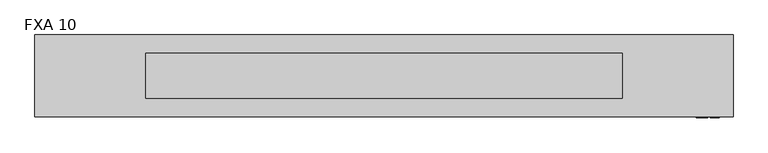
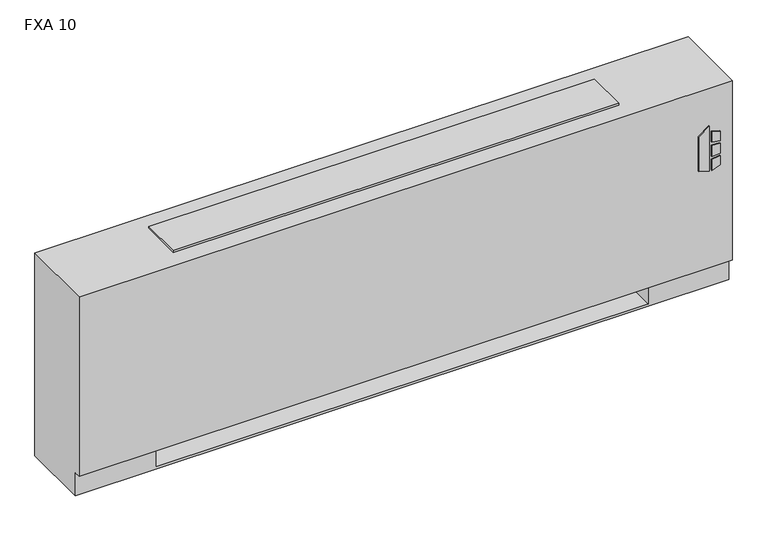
"""IFC4 building model written with IfcOpenShell, lengths in millimetres: proxy geometry, Vertical_Fan_Coil_Unit_-_FXA_-_IEC_-_4-Pipe_TS-FR_LH_2022 : FXA 10."""

from ifc_helpers import new_model, si_unit, point, frame, frame_2d, origin, place, context, project, spatial, polyline, circle_curve, trimmed, segment, composite_curve, outline, extrude, source, transform, mapped, element, save
from ifc_brep_helpers import plane_surface, revolved_surface, advanced_brep


def fxa_10_7e9628c3(model_context):
    return source(origin(), model_context, "Body", "SolidModel", [
        extrude(outline(polyline([(391.6086829, 1027.1868862), (381.6606126, 1059.3602728), (523.831537, 1059.3602728), (500.8095309, 1027.1868862), (391.6086829, 1027.1868862)])), frame((0.0, 12.7, 0.0), z_axis=(0.0, 1.0, 0.0), x_axis=(0.0, 0.0, 1.0)), (0.0, 0.0, 1.0), 3.175),
        extrude(outline(polyline([(470.6079683, 1066.1186058), (467.4055757, 1092.2), (496.6344168, 1092.2), (504.6988318, 1066.1186058), (470.6079683, 1066.1186058)])), frame((0.0, 12.7, 0.0), z_axis=(0.0, 1.0, 0.0), x_axis=(0.0, 0.0, 1.0)), (0.0, 0.0, 1.0), 3.175),
        extrude(outline(polyline([(418.7444414, 1092.2), (415.0789404, 1066.1186058), (381.6606126, 1066.1186058), (390.2948498, 1092.2), (418.7444414, 1092.2)])), frame((0.0, 12.7, 0.0), z_axis=(0.0, 1.0, 0.0), x_axis=(0.0, 0.0, 1.0)), (0.0, 0.0, 1.0), 3.175),
        extrude(outline(polyline([(458.0596028, 1092.2), (460.3414292, 1066.1186058), (424.4038806, 1066.1186058), (427.1451456, 1092.2), (458.0596028, 1092.2)])), frame((0.0, 12.7, 0.0), z_axis=(0.0, 1.0, 0.0), x_axis=(0.0, 0.0, 1.0)), (0.0, 0.0, 1.0), 3.175),
        extrude(outline(polyline([(1009.65, 223.266), (1009.65, 81.534), (889.0, 81.534), (889.0, 223.266), (1009.65, 223.266)])), frame((0.0, 0.0, 327.025), z_axis=(0.0, 0.0, 1.0), x_axis=(1.0, 0.0, 0.0)), (0.0, 0.0, 1.0), 260.35),
        extrude(outline(composite_curve([segment(trimmed(circle_curve(frame_2d((-647.7, 130.175)), 9.525), [point((-657.225, 130.175))], [point((-638.175, 130.175))], False, "CARTESIAN"), True, "CONTINUOUS"), segment(trimmed(circle_curve(frame_2d((-647.7, 130.175)), 9.525), [point((-638.175, 130.175))], [point((-657.225, 130.175))], False, "CARTESIAN"), True, "CONTINUOUS")], self_intersect=False)), frame((0.0, 0.0, 101.6), z_axis=(0.0, 0.0, 1.0), x_axis=(1.0, 0.0, 0.0)), (0.0, 0.0, 1.0), 25.4),
        extrude(outline(polyline([(-742.95, 63.5), (-742.95, 196.85), (-584.2, 196.85), (-584.2, 63.5), (-742.95, 63.5)])), frame((0.0, 0.0, 127.0), z_axis=(0.0, 0.0, 1.0), x_axis=(1.0, 0.0, 0.0)), (0.0, 0.0, 1.0), 50.8),
        extrude(outline(composite_curve([segment(trimmed(circle_curve(frame_2d((109.0168, 460.0194)), 7.9375), [point((109.0168, 467.9569))], [point((109.0168, 452.0819))], False, "CARTESIAN"), True, "CONTINUOUS"), segment(trimmed(circle_curve(frame_2d((109.0168, 460.0194)), 7.9375), [point((109.0168, 452.0819))], [point((109.0168, 467.9569))], False, "CARTESIAN"), True, "CONTINUOUS")], self_intersect=False)), frame((-635.0, 0.0, 0.0), z_axis=(1.0, 0.0, 0.0), x_axis=(0.0, 1.0, 0.0)), (0.0, 0.0, 1.0), 50.8),
        extrude(outline(composite_curve([segment(trimmed(circle_curve(frame_2d((172.085, 460.0194)), 7.9375), [point((172.085, 467.9569))], [point((172.085, 452.0819))], False, "CARTESIAN"), True, "CONTINUOUS"), segment(trimmed(circle_curve(frame_2d((172.085, 460.0194)), 7.9375), [point((172.085, 452.0819))], [point((172.085, 467.9569))], False, "CARTESIAN"), True, "CONTINUOUS")], self_intersect=False)), frame((-635.0, 0.0, 0.0), z_axis=(1.0, 0.0, 0.0), x_axis=(0.0, 1.0, 0.0)), (0.0, 0.0, 1.0), 50.8),
        extrude(outline(composite_curve([segment(trimmed(circle_curve(frame_2d((130.175, 554.99)), 7.9502), [point((130.175, 562.9402))], [point((130.175, 547.0398))], False, "CARTESIAN"), True, "CONTINUOUS"), segment(trimmed(circle_curve(frame_2d((130.175, 554.99)), 7.9502), [point((130.175, 547.0398))], [point((130.175, 562.9402))], False, "CARTESIAN"), True, "CONTINUOUS")], self_intersect=False)), frame((-635.0, 0.0, 0.0), z_axis=(1.0, 0.0, 0.0), x_axis=(0.0, 1.0, 0.0)), (0.0, 0.0, 1.0), 50.8),
        extrude(outline(composite_curve([segment(trimmed(circle_curve(frame_2d((53.975, 416.56)), 7.9502), [point((53.975, 424.5102))], [point((53.975, 408.6098))], False, "CARTESIAN"), True, "CONTINUOUS"), segment(trimmed(circle_curve(frame_2d((53.975, 416.56)), 7.9502), [point((53.975, 408.6098))], [point((53.975, 424.5102))], False, "CARTESIAN"), True, "CONTINUOUS")], self_intersect=False)), frame((-635.0, 0.0, 0.0), z_axis=(1.0, 0.0, 0.0), x_axis=(0.0, 1.0, 0.0)), (0.0, 0.0, 1.0), 50.8),
        advanced_brep(
        [(1130.3, 244.475, 641.35), (-825.5, 244.475, 641.35), (-825.5, 15.875, 641.35), (1130.3, 15.875, 641.35), (-825.5, 244.475, 0.0), (1130.3, 244.475, 0.0), (1130.3, 34.925, 0.0), (-825.5, 34.925, 0.0), (889.0, 244.475, 73.025), (1117.6, 244.475, 73.025), (1117.6, 244.475, 628.65), (889.0, 244.475, 628.65), (889.0, 244.475, 414.8650565), (917.575, 244.475, 414.8650565), (917.575, 244.475, 385.2349435), (889.0, 244.475, 385.2349435), (889.0, 244.475, 287.3375), (917.575, 244.475, 287.3375), (917.575, 244.475, 258.7625), (889.0, 244.475, 258.7625), (889.0, 244.475, 141.2875), (917.575, 244.475, 141.2875), (917.575, 244.475, 112.7125), (889.0, 244.475, 112.7125), (-584.2, 244.475, 628.65), (-812.8, 244.475, 628.65), (-812.8, 244.475, 73.025), (-584.2, 244.475, 73.025), (-584.2, 244.475, 112.7125), (-612.775, 244.475, 112.7125), (-612.775, 244.475, 141.2875), (-584.2, 244.475, 141.2875), (-584.2, 244.475, 258.7625), (-612.775, 244.475, 258.7625), (-612.775, 244.475, 287.3375), (-584.2, 244.475, 287.3375), (-584.2, 244.475, 385.2349435), (-612.775, 244.475, 385.2349435), (-612.775, 244.475, 414.8650565), (-584.2, 244.475, 414.8650565), (907.2626, 244.475, 127.0), (896.1374, 244.475, 127.0), (907.2626, 244.475, 400.05), (896.1374, 244.475, 400.05), (907.2626, 244.475, 273.05), (896.1374, 244.475, 273.05), (-591.3374, 244.475, 127.0), (-602.4626, 244.475, 127.0), (-591.3374, 244.475, 273.05), (-602.4626, 244.475, 273.05), (-591.3374, 244.475, 400.05), (-602.4626, 244.475, 400.05), (-825.5, 34.925, 73.025), (-825.5, 15.875, 73.025), (1130.3, 15.875, 73.025), (1130.3, 34.925, 73.025), (-584.2, 34.925, 73.025), (-584.2, 219.075, 73.025), (889.0, 219.075, 73.025), (889.0, 34.925, 73.025), (889.0, 34.925, 6.35), (-584.2, 34.925, 6.35), (889.0, 41.275, 628.65), (1117.6, 41.275, 628.65), (1117.6, 41.275, 73.025), (889.0, 41.275, 73.025), (-584.2, 41.275, 628.65), (-584.2, 41.275, 73.025), (-812.8, 41.275, 73.025), (-812.8, 41.275, 628.65), (889.0, 219.075, 73.025), (889.0, 238.125, 112.7125), (889.0, 238.125, 141.2875), (889.0, 238.125, 258.7625), (889.0, 238.125, 287.3375), (889.0, 238.125, 385.2349435), (889.0, 238.125, 414.8650565), (-584.2, 219.075, 73.025), (-584.2, 238.125, 414.8650565), (-584.2, 238.125, 385.2349435), (-584.2, 238.125, 287.3375), (-584.2, 238.125, 258.7625), (-584.2, 238.125, 141.2875), (-584.2, 238.125, 112.7125), (-584.2, 219.075, 6.35), (889.0, 219.075, 6.35), (917.575, 238.125, 112.7125), (917.575, 238.125, 141.2875), (896.1374, 238.125, 127.0), (907.2626, 238.125, 127.0), (917.575, 238.125, 258.7625), (917.575, 238.125, 287.3375), (896.1374, 238.125, 273.05), (907.2626, 238.125, 273.05), (917.575, 238.125, 385.2349435), (917.575, 238.125, 414.8650565), (896.1374, 238.125, 400.05), (907.2626, 238.125, 400.05), (-612.775, 238.125, 141.2875), (-612.775, 238.125, 112.7125), (-602.4626, 238.125, 127.0), (-591.3374, 238.125, 127.0), (-612.775, 238.125, 287.3375), (-612.775, 238.125, 258.7625), (-602.4626, 238.125, 273.05), (-591.3374, 238.125, 273.05), (-612.775, 238.125, 414.8650565), (-612.775, 238.125, 385.2349435), (-602.4626, 238.125, 400.05), (-591.3374, 238.125, 400.05)],
        [
            (0, 1),
            (1, 2),
            (2, 3),
            (3, 0),
            (4, 5),
            (5, 6),
            (6, 7),
            (7, 4),
            (0, 5),
            (4, 1),
            (8, 9),
            (9, 10),
            (10, 11),
            (11, 12),
            (12, 13),
            (13, 14),
            (14, 15),
            (15, 16),
            (16, 17),
            (17, 18),
            (18, 19),
            (19, 20),
            (20, 21),
            (21, 22),
            (22, 23),
            (23, 8),
            (24, 25),
            (25, 26),
            (26, 27),
            (27, 28),
            (28, 29),
            (29, 30),
            (30, 31),
            (31, 32),
            (32, 33),
            (33, 34),
            (34, 35),
            (35, 36),
            (36, 37),
            (37, 38),
            (38, 39),
            (39, 24),
            (40, 41, circle_curve(frame((901.7, 244.475, 127.0), z_axis=(0.0, -1.0, 0.0), x_axis=(-1.0, 0.0, 0.0)), 5.5626)),
            (41, 40, circle_curve(frame((901.7, 244.475, 127.0), z_axis=(0.0, -1.0, 0.0), x_axis=(-1.0, 0.0, 0.0)), 5.5626)),
            (42, 43, circle_curve(frame((901.7, 244.475, 400.05), z_axis=(0.0, -1.0, 0.0), x_axis=(-1.0, 0.0, 0.0)), 5.5626)),
            (43, 42, circle_curve(frame((901.7, 244.475, 400.05), z_axis=(0.0, -1.0, 0.0), x_axis=(-1.0, 0.0, 0.0)), 5.5626)),
            (44, 45, circle_curve(frame((901.7, 244.475, 273.05), z_axis=(0.0, -1.0, 0.0), x_axis=(-1.0, 0.0, 0.0)), 5.5626)),
            (45, 44, circle_curve(frame((901.7, 244.475, 273.05), z_axis=(0.0, -1.0, 0.0), x_axis=(-1.0, 0.0, 0.0)), 5.5626)),
            (46, 47, circle_curve(frame((-596.9, 244.475, 127.0), z_axis=(0.0, -1.0, 0.0), x_axis=(-1.0, 0.0, 0.0)), 5.5626)),
            (47, 46, circle_curve(frame((-596.9, 244.475, 127.0), z_axis=(0.0, -1.0, 0.0), x_axis=(-1.0, 0.0, 0.0)), 5.5626)),
            (48, 49, circle_curve(frame((-596.9, 244.475, 273.05), z_axis=(0.0, -1.0, 0.0), x_axis=(-1.0, 0.0, 0.0)), 5.5626)),
            (49, 48, circle_curve(frame((-596.9, 244.475, 273.05), z_axis=(0.0, -1.0, 0.0), x_axis=(-1.0, 0.0, 0.0)), 5.5626)),
            (50, 51, circle_curve(frame((-596.9, 244.475, 400.05), z_axis=(0.0, -1.0, 0.0), x_axis=(-1.0, 0.0, 0.0)), 5.5626)),
            (51, 50, circle_curve(frame((-596.9, 244.475, 400.05), z_axis=(0.0, -1.0, 0.0), x_axis=(-1.0, 0.0, 0.0)), 5.5626)),
            (7, 52),
            (52, 53),
            (53, 2),
            (53, 54),
            (54, 3),
            (54, 55),
            (55, 6),
            (52, 56),
            (56, 57),
            (57, 58),
            (58, 59),
            (59, 55),
            (59, 60),
            (60, 61),
            (61, 56),
            (62, 63),
            (63, 64),
            (64, 65),
            (65, 62),
            (66, 67),
            (67, 68),
            (68, 69),
            (69, 66),
            (65, 70),
            (70, 8),
            (23, 71),
            (71, 72),
            (72, 20),
            (19, 73),
            (73, 74),
            (74, 16),
            (15, 75),
            (75, 76),
            (76, 12),
            (11, 62),
            (64, 9),
            (63, 10),
            (69, 25),
            (24, 66),
            (68, 26),
            (67, 77),
            (77, 27),
            (39, 78),
            (78, 79),
            (79, 36),
            (35, 80),
            (80, 81),
            (81, 32),
            (31, 82),
            (82, 83),
            (83, 28),
            (57, 84),
            (84, 85),
            (85, 58),
            (85, 60),
            (84, 61),
            (71, 86),
            (86, 87),
            (87, 72),
            (88, 89, circle_curve(frame((901.7, 238.125, 127.0), z_axis=(0.0, 1.0, 0.0), x_axis=(-1.0, 0.0, 0.0)), 5.5626)),
            (89, 88, circle_curve(frame((901.7, 238.125, 127.0), z_axis=(0.0, 1.0, 0.0), x_axis=(-1.0, 0.0, 0.0)), 5.5626)),
            (73, 90),
            (90, 91),
            (91, 74),
            (92, 93, circle_curve(frame((901.7, 238.125, 273.05), z_axis=(0.0, 1.0, 0.0), x_axis=(-1.0, 0.0, 0.0)), 5.5626)),
            (93, 92, circle_curve(frame((901.7, 238.125, 273.05), z_axis=(0.0, 1.0, 0.0), x_axis=(-1.0, 0.0, 0.0)), 5.5626)),
            (75, 94),
            (94, 95),
            (95, 76),
            (96, 97, circle_curve(frame((901.7, 238.125, 400.05), z_axis=(0.0, 1.0, 0.0), x_axis=(-1.0, 0.0, 0.0)), 5.5626)),
            (97, 96, circle_curve(frame((901.7, 238.125, 400.05), z_axis=(0.0, 1.0, 0.0), x_axis=(-1.0, 0.0, 0.0)), 5.5626)),
            (98, 99),
            (99, 83),
            (82, 98),
            (100, 101, circle_curve(frame((-596.9, 238.125, 127.0), z_axis=(0.0, 1.0, 0.0), x_axis=(-1.0, 0.0, 0.0)), 5.5626)),
            (101, 100, circle_curve(frame((-596.9, 238.125, 127.0), z_axis=(0.0, 1.0, 0.0), x_axis=(-1.0, 0.0, 0.0)), 5.5626)),
            (102, 103),
            (103, 81),
            (80, 102),
            (104, 105, circle_curve(frame((-596.9, 238.125, 273.05), z_axis=(0.0, 1.0, 0.0), x_axis=(-1.0, 0.0, 0.0)), 5.5626)),
            (105, 104, circle_curve(frame((-596.9, 238.125, 273.05), z_axis=(0.0, 1.0, 0.0), x_axis=(-1.0, 0.0, 0.0)), 5.5626)),
            (106, 107),
            (107, 79),
            (78, 106),
            (108, 109, circle_curve(frame((-596.9, 238.125, 400.05), z_axis=(0.0, 1.0, 0.0), x_axis=(-1.0, 0.0, 0.0)), 5.5626)),
            (109, 108, circle_curve(frame((-596.9, 238.125, 400.05), z_axis=(0.0, 1.0, 0.0), x_axis=(-1.0, 0.0, 0.0)), 5.5626)),
            (87, 21),
            (86, 22),
            (91, 17),
            (90, 18),
            (95, 13),
            (94, 14),
            (30, 98),
            (99, 29),
            (34, 102),
            (103, 33),
            (38, 106),
            (107, 37),
            (88, 41),
            (40, 89),
            (96, 43),
            (42, 97),
            (92, 45),
            (44, 93),
            (100, 47),
            (46, 101),
            (104, 49),
            (48, 105),
            (108, 51),
            (50, 109),
        ],
        [
            plane_surface(frame((-825.5, 244.475, 641.35), z_axis=(0.0, 0.0, 1.0), x_axis=(-1.0, 0.0, 0.0))),
            plane_surface(frame((-825.5, 244.475, 0.0), z_axis=(0.0, 0.0, -1.0), x_axis=(1.0, 0.0, 0.0))),
            plane_surface(frame((1130.3, 244.475, 641.35), z_axis=(0.0, 1.0, 0.0), x_axis=(0.0, 0.0, -1.0))),
            plane_surface(frame((-825.5, 244.475, 641.35), z_axis=(-1.0, 0.0, 0.0), x_axis=(0.0, 0.0, -1.0))),
            plane_surface(frame((-825.5, 15.875, 641.35), z_axis=(0.0, -1.0, 0.0), x_axis=(0.0, 0.0, -1.0))),
            plane_surface(frame((1130.3, 15.875, 641.35), z_axis=(1.0, 0.0, 0.0), x_axis=(0.0, 0.0, -1.0))),
            plane_surface(frame((-825.5, 15.875, 73.025), z_axis=(0.0, 0.0, -1.0), x_axis=(1.0, 0.0, 0.0))),
            plane_surface(frame((-825.5, 34.925, 73.025), z_axis=(0.0, -1.0, 0.0), x_axis=(1.0, 0.0, 0.0))),
            plane_surface(frame((889.0, 41.275, 628.65), z_axis=(0.0, 1.0, 0.0), x_axis=(0.0, 0.0, -1.0))),
            plane_surface(frame((889.0, 41.275, 628.65), z_axis=(1.0, 0.0, 0.0), x_axis=(0.0, 1.0, 0.0))),
            plane_surface(frame((889.0, 41.275, 73.025), z_axis=(0.0, 0.0, 1.0), x_axis=(0.0, 1.0, 0.0))),
            plane_surface(frame((1117.6, 41.275, 73.025), z_axis=(-1.0, 0.0, 0.0), x_axis=(0.0, 1.0, 0.0))),
            plane_surface(frame((1117.6, 41.275, 628.65), z_axis=(0.0, 0.0, -1.0), x_axis=(0.0, 1.0, 0.0))),
            plane_surface(frame((-584.2, 41.275, 628.65), z_axis=(0.0, 0.0, -1.0), x_axis=(0.0, 1.0, 0.0))),
            plane_surface(frame((-812.8, 41.275, 628.65), z_axis=(1.0, 0.0, 0.0), x_axis=(0.0, 1.0, 0.0))),
            plane_surface(frame((-812.8, 41.275, 73.025), z_axis=(0.0, 0.0, 1.0), x_axis=(0.0, 1.0, 0.0))),
            plane_surface(frame((-584.2, 41.275, 73.025), z_axis=(-1.0, 0.0, 0.0), x_axis=(0.0, 1.0, 0.0))),
            plane_surface(frame((889.0, 219.075, 73.025), z_axis=(0.0, -1.0, 0.0), x_axis=(0.0, 0.0, -1.0))),
            plane_surface(frame((889.0, 219.075, 73.025), z_axis=(-1.0, 0.0, 0.0), x_axis=(0.0, -1.0, 0.0))),
            plane_surface(frame((889.0, 219.075, 6.35), z_axis=(0.0, 0.0, 1.0), x_axis=(0.0, -1.0, 0.0))),
            plane_surface(frame((-584.2, 219.075, 6.35), z_axis=(1.0, 0.0, 0.0), x_axis=(0.0, -1.0, 0.0))),
            plane_surface(frame((917.575, 238.125, 141.2875), z_axis=(0.0, -1.0, 0.0), x_axis=(-1.0, 0.0, 0.0))),
            plane_surface(frame((889.0, 244.475, 141.2875), z_axis=(0.0, 0.0, 1.0), x_axis=(0.0, -1.0, 0.0))),
            plane_surface(frame((917.575, 244.475, 141.2875), z_axis=(1.0, 0.0, 0.0), x_axis=(0.0, -1.0, 0.0))),
            plane_surface(frame((917.575, 244.475, 112.7125), z_axis=(0.0, 0.0, -1.0), x_axis=(0.0, -1.0, 0.0))),
            plane_surface(frame((889.0, 244.475, 287.3375), z_axis=(0.0, 0.0, 1.0), x_axis=(0.0, -1.0, 0.0))),
            plane_surface(frame((917.575, 244.475, 287.3375), z_axis=(1.0, 0.0, 0.0), x_axis=(0.0, -1.0, 0.0))),
            plane_surface(frame((917.575, 244.475, 258.7625), z_axis=(0.0, 0.0, -1.0), x_axis=(0.0, -1.0, 0.0))),
            plane_surface(frame((889.0, 244.475, 414.8650565), z_axis=(0.0, 0.0, 1.0), x_axis=(0.0, -1.0, 0.0))),
            plane_surface(frame((917.575, 244.475, 414.8650565), z_axis=(1.0, 0.0, 0.0), x_axis=(0.0, -1.0, 0.0))),
            plane_surface(frame((917.575, 244.475, 385.2349435), z_axis=(0.0, 0.0, -1.0), x_axis=(0.0, -1.0, 0.0))),
            plane_surface(frame((-612.775, 244.475, 141.2875), z_axis=(0.0, 0.0, 1.0), x_axis=(0.0, -1.0, 0.0))),
            plane_surface(frame((-584.2, 244.475, 112.7125), z_axis=(0.0, 0.0, -1.0), x_axis=(0.0, -1.0, 0.0))),
            plane_surface(frame((-612.775, 244.475, 112.7125), z_axis=(-1.0, 0.0, 0.0), x_axis=(0.0, -1.0, 0.0))),
            plane_surface(frame((-612.775, 244.475, 287.3375), z_axis=(0.0, 0.0, 1.0), x_axis=(0.0, -1.0, 0.0))),
            plane_surface(frame((-584.2, 244.475, 258.7625), z_axis=(0.0, 0.0, -1.0), x_axis=(0.0, -1.0, 0.0))),
            plane_surface(frame((-612.775, 244.475, 258.7625), z_axis=(-1.0, 0.0, 0.0), x_axis=(0.0, -1.0, 0.0))),
            plane_surface(frame((-612.775, 244.475, 414.8650565), z_axis=(0.0, 0.0, 1.0), x_axis=(0.0, -1.0, 0.0))),
            plane_surface(frame((-584.2, 244.475, 385.2349435), z_axis=(0.0, 0.0, -1.0), x_axis=(0.0, -1.0, 0.0))),
            plane_surface(frame((-612.775, 244.475, 385.2349435), z_axis=(-1.0, 0.0, 0.0), x_axis=(0.0, -1.0, 0.0))),
            revolved_surface(polyline([(896.1374000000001, 238.125, 127.0), (896.1374000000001, 244.475, 127.0)]), (901.7, 244.475, 127.0), (0.0, -1.0, 0.0)),
            revolved_surface(polyline([(896.1374000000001, 238.125, 400.05), (896.1374000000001, 244.475, 400.05)]), (901.7, 244.475, 400.05), (0.0, -1.0, 0.0)),
            revolved_surface(polyline([(896.1374000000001, 238.125, 273.05), (896.1374000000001, 244.475, 273.05)]), (901.7, 244.475, 273.05), (0.0, -1.0, 0.0)),
            revolved_surface(polyline([(-602.4626, 238.125, 127.0), (-602.4626, 244.475, 127.0)]), (-596.9, 244.475, 127.0), (0.0, -1.0, 0.0)),
            revolved_surface(polyline([(-602.4626, 238.125, 273.05), (-602.4626, 244.475, 273.05)]), (-596.9, 244.475, 273.05), (0.0, -1.0, 0.0)),
            revolved_surface(polyline([(-602.4626, 238.125, 400.05), (-602.4626, 244.475, 400.05)]), (-596.9, 244.475, 400.05), (0.0, -1.0, 0.0)),
        ],
        [
            (0, [[1, 2, 3, 4]]),
            (1, [[5, 6, 7, 8]]),
            (2, [[-1, 9, -5, 10], [11, 12, 13, 14, 15, 16, 17, 18, 19, 20, 21, 22, 23, 24, 25, 26], [27, 28, 29, 30, 31, 32, 33, 34, 35, 36, 37, 38, 39, 40, 41, 42], [43, 44], [45, 46], [47, 48], [49, 50], [51, 52], [53, 54]]),
            (3, [[-2, -10, -8, 55, 56, 57]]),
            (4, [[-3, -57, 58, 59]]),
            (5, [[-4, -59, 60, 61, -6, -9]]),
            (6, [[-56, 62, 63, 64, 65, 66, -60, -58]]),
            (7, [[-7, -61, -66, 67, 68, 69, -62, -55]]),
            (8, [[70, 71, 72, 73]]),
            (8, [[74, 75, 76, 77]]),
            (9, [[-73, 78, 79, -26, 80, 81, 82, -22, 83, 84, 85, -18, 86, 87, 88, -14, 89]]),
            (10, [[-72, 90, -11, -79, -78]]),
            (11, [[-71, 91, -12, -90]]),
            (12, [[-70, -89, -13, -91]]),
            (13, [[-77, 92, -27, 93]]),
            (14, [[-76, 94, -28, -92]]),
            (15, [[-75, 95, 96, -29, -94]]),
            (16, [[-74, -93, -42, 97, 98, 99, -38, 100, 101, 102, -34, 103, 104, 105, -30, -96, -95]]),
            (17, [[-64, 106, 107, 108]]),
            (18, [[-108, 109, -67, -65]]),
            (19, [[-107, 110, -68, -109]]),
            (20, [[-106, -63, -69, -110]]),
            (21, [[111, 112, 113, -81], [114, 115]]),
            (21, [[116, 117, 118, -84], [119, 120]]),
            (21, [[121, 122, 123, -87], [124, 125]]),
            (21, [[126, 127, -104, 128], [129, 130]]),
            (21, [[131, 132, -101, 133], [134, 135]]),
            (21, [[136, 137, -98, 138], [139, 140]]),
            (22, [[-113, 141, -23, -82]]),
            (23, [[-112, 142, -24, -141]]),
            (24, [[-111, -80, -25, -142]]),
            (25, [[-118, 143, -19, -85]]),
            (26, [[-117, 144, -20, -143]]),
            (27, [[-116, -83, -21, -144]]),
            (28, [[-123, 145, -15, -88]]),
            (29, [[-122, 146, -16, -145]]),
            (30, [[-121, -86, -17, -146]]),
            (31, [[-128, -103, -33, 147]]),
            (32, [[-127, 148, -31, -105]]),
            (33, [[-126, -147, -32, -148]]),
            (34, [[-133, -100, -37, 149]]),
            (35, [[-132, 150, -35, -102]]),
            (36, [[-131, -149, -36, -150]]),
            (37, [[-138, -97, -41, 151]]),
            (38, [[-137, 152, -39, -99]]),
            (39, [[-136, -151, -40, -152]]),
            (40, [[153, -43, 154, -114]]),
            (40, [[-153, -115, -154, -44]]),
            (41, [[155, -45, 156, -124]]),
            (41, [[-155, -125, -156, -46]]),
            (42, [[157, -47, 158, -119]]),
            (42, [[-157, -120, -158, -48]]),
            (43, [[159, -49, 160, -129]]),
            (43, [[-159, -130, -160, -50]]),
            (44, [[161, -51, 162, -134]]),
            (44, [[-161, -135, -162, -52]]),
            (45, [[163, -53, 164, -139]]),
            (45, [[-163, -140, -164, -54]]),
        ],
    ),
        extrude(outline(polyline([(819.15, 193.675), (819.15, 66.675), (-514.35, 66.675), (-514.35, 193.675), (819.15, 193.675)])), frame((0.0, 0.0, 641.35), z_axis=(0.0, 0.0, 1.0), x_axis=(1.0, 0.0, 0.0)), (0.0, 0.0, 1.0), 6.35),
    ])


if __name__ == "__main__":
    model = new_model("IFC4")
    model_context = context("Model", 3, world=origin())
    ifc_project = project(units=[si_unit("LENGTHUNIT", "METRE", prefix="MILLI")], contexts=[model_context])
    site = spatial("IfcSite", under=ifc_project)
    building = spatial("IfcBuilding", under=site)
    placement = place(None, origin())
    fxa_10_shape = fxa_10_7e9628c3(model_context)
    element("IfcBuildingElementProxy", 1, Name="Vertical_Fan_Coil_Unit_-_FXA_-_IEC_-_4-Pipe_TS-FR_LH_2022 : FXA 10", ObjectType="Vertical_Fan_Coil_Unit_-_FXA_-_IEC_-_4-Pipe_TS-FR_LH_2022 : FXA 10", at=placement, inside=building, context=model_context, shape_type="MappedRepresentation", body=[
        mapped(fxa_10_shape, transform((0.0, 0.0, 0.0), x_axis=(1.0, 0.0, 0.0), y_axis=(0.0, 1.0, 0.0), z_axis=(0.0, 0.0, 1.0))),
    ])
    save(model, "model.ifc")
